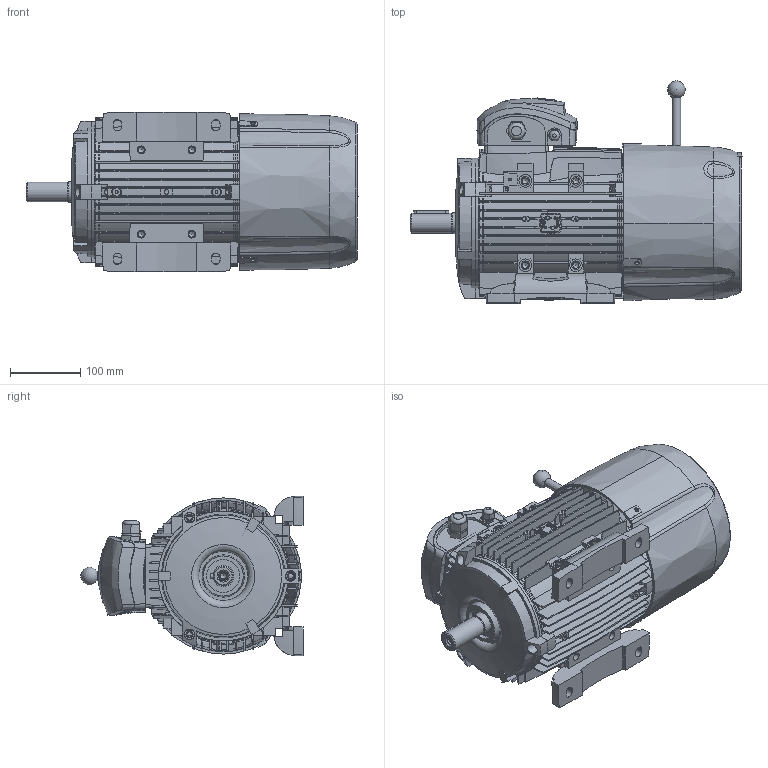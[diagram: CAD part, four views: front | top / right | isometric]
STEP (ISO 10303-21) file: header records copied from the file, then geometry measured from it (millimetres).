
FILE_DESCRIPTION((''),'2;1');
FILE_NAME('D:\htdocs\motive\source_step\M112.stp','2014-09-02T17:04:20',('ing.Casini'),(''),'Autodesk Inventor 2010','Autodesk Inventor 2010','');
FILE_SCHEMA(('AUTOMOTIVE_DESIGN { 1 0 10303 214 1 1 1 1 }'));
Length unit declared in the file: millimetre
Products named in the file (7): M112 Lighter motor Assly_01.09; BODY112; B3112; SH112; FEET112_1; TBOXATDC112; FCVATDC112
Assembly tree (7 placements, depth 2):
  M112 Lighter motor Assly_01.09
    BODY112
    B3112
    SH112
    FEET112_1  x2
    TBOXATDC112
    FCVATDC112
Bounding box: 472.3 x 315.89 x 227 mm (x, y, z)
Volume: 2367745.9 mm3; surface area: 1133979.3 mm2
Topology: 9 solids, 9 shells, 2098 faces, 5893 edges, 3917 vertices
Faces by surface type: plane 793, bspline 590, cylinder 315, cone 297, torus 102, sphere 1
Full cylindrical faces by diameter (mm): 2.5 x4, 4.2 x13, 5.2 x2, 5.6 x2, 6 x3, 6.8 x1, 8 x6, 8.5 x13, 10 x3, 10.5 x1, 11 x4, 12 x2, 24 x1, 27.4 x1, 28 x1, 30 x2, 32 x1, 47 x1, 52 x1, 62 x2, 65 x1, 175 x1, 176 x3
Entity records: 108126 total; most frequent: CARTESIAN_POINT 60519, ORIENTED_EDGE 11196, DIRECTION 7776, EDGE_CURVE 5598, VERTEX_POINT 3802, AXIS2_PLACEMENT_3D 2920, EDGE_LOOP 2344, B_SPLINE_CURVE_WITH_KNOTS 2122
